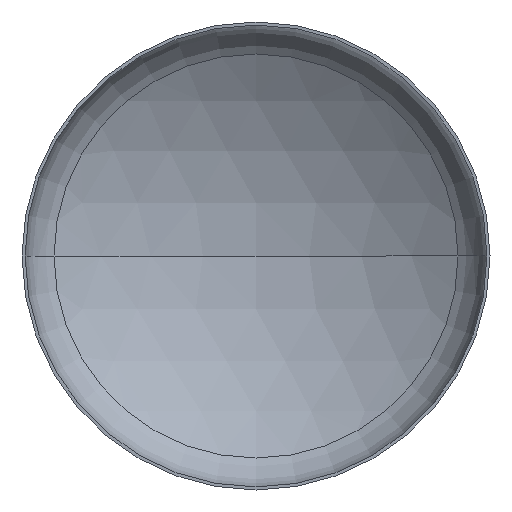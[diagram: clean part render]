
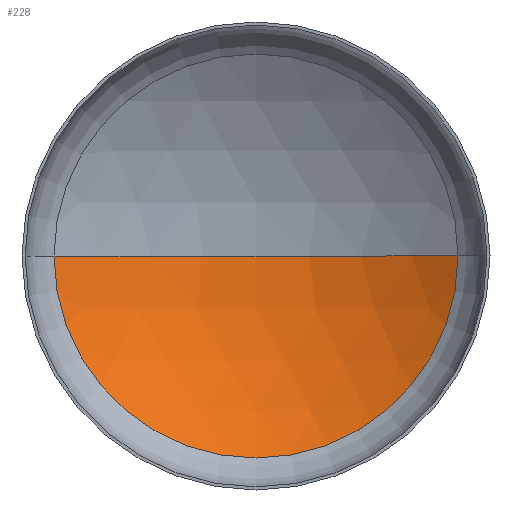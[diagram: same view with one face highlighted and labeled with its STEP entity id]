
A CAD part, front view. The second image highlights one B-rep face of the part: STEP entity #228.
In plain terms, the highlighted spherical face has radius 479.68 mm.
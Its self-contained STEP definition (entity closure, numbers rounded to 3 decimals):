
#1 = CARTESIAN_POINT ( 'NONE',  ( 263.132, 73.387, 0. ) ) ;
#12 = EDGE_LOOP ( 'NONE', ( #145, #327, #365 ) ) ;
#25 = CIRCLE ( 'NONE', #282, 479.68 ) ;
#32 = AXIS2_PLACEMENT_3D ( 'NONE', #134, #129, #166 ) ;
#39 = CARTESIAN_POINT ( 'NONE',  ( 0., 73.387, 0. ) ) ;
#44 = DIRECTION ( 'NONE',  ( -1., 0., 0. ) ) ;
#50 = VERTEX_POINT ( 'NONE', #1 ) ;
#51 = CIRCLE ( 'NONE', #32, 479.68 ) ;
#60 = CARTESIAN_POINT ( 'NONE',  ( 0., -327.68, 0. ) ) ;
#66 = EDGE_CURVE ( 'NONE', #50, #244, #51, .T. ) ;
#69 = CARTESIAN_POINT ( 'NONE',  ( -263.132, 73.387, 0. ) ) ;
#108 = VERTEX_POINT ( 'NONE', #69 ) ;
#120 = DIRECTION ( 'NONE',  ( -1., 0., 0. ) ) ;
#128 = SPHERICAL_SURFACE ( 'NONE', #175, 479.68 ) ;
#129 = DIRECTION ( 'NONE',  ( 0., 0., 1. ) ) ;
#134 = CARTESIAN_POINT ( 'NONE',  ( 0., -327.68, 0. ) ) ;
#145 = ORIENTED_EDGE ( 'NONE', *, *, #165, .F. ) ;
#154 = DIRECTION ( 'NONE',  ( 0., 0., -1. ) ) ;
#165 = EDGE_CURVE ( 'NONE', #50, #108, #232, .T. ) ;
#166 = DIRECTION ( 'NONE',  ( 1., 0., 0. ) ) ;
#175 = AXIS2_PLACEMENT_3D ( 'NONE', #60, #319, #316 ) ;
#228 = ADVANCED_FACE ( 'NONE', ( #294 ), #128, .F. ) ;
#232 = CIRCLE ( 'NONE', #386, 263.132 ) ;
#244 = VERTEX_POINT ( 'NONE', #403 ) ;
#272 = DIRECTION ( 'NONE',  ( 0., 1., 0. ) ) ;
#282 = AXIS2_PLACEMENT_3D ( 'NONE', #314, #154, #120 ) ;
#294 = FACE_OUTER_BOUND ( 'NONE', #12, .T. ) ;
#314 = CARTESIAN_POINT ( 'NONE',  ( 0., -327.68, 0. ) ) ;
#316 = DIRECTION ( 'NONE',  ( -1., 0., 0. ) ) ;
#319 = DIRECTION ( 'NONE',  ( 0., 0., 1. ) ) ;
#327 = ORIENTED_EDGE ( 'NONE', *, *, #66, .T. ) ;
#365 = ORIENTED_EDGE ( 'NONE', *, *, #372, .F. ) ;
#372 = EDGE_CURVE ( 'NONE', #108, #244, #25, .T. ) ;
#386 = AXIS2_PLACEMENT_3D ( 'NONE', #39, #272, #44 ) ;
#403 = CARTESIAN_POINT ( 'NONE',  ( 0., 152., 0. ) ) ;
